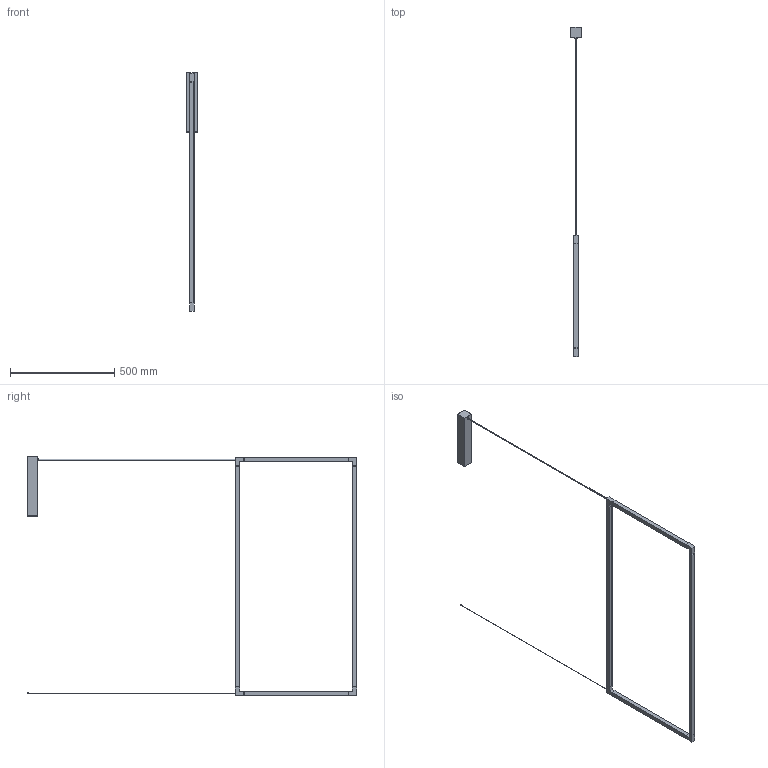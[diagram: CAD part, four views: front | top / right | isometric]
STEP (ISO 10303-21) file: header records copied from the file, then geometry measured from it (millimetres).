
FILE_DESCRIPTION (( 'STEP AP214' ), '1' );
FILE_NAME ('3D_SPIGOLO_V_PENDANT.STEP', '2018-04-09T16:24:34', ( 'Utente' ), ( '' ), 'SwSTEP 2.0', 'SolidWorks 2016', '' );
FILE_SCHEMA (( 'AUTOMOTIVE_DESIGN' ));
Length unit declared in the file: millimetre
Products named in the file (5): Group1^3D_SPIGOLO_V_PENDANT; 3D_SPIGOLO_V_PENDANT; 019COM000081-1^3D_SPIGOLO_V_PENDANT; Group3^3D_SPIGOLO_V_PENDANT; Group2^3D_SPIGOLO_V_PENDANT
Assembly tree (4 placements, depth 2):
  3D_SPIGOLO_V_PENDANT
    Group1^3D_SPIGOLO_V_PENDANT
    Group2^3D_SPIGOLO_V_PENDANT
    Group3^3D_SPIGOLO_V_PENDANT
    019COM000081-1^3D_SPIGOLO_V_PENDANT
Bounding box: 50 x 1582 x 1146.7 mm (x, y, z)
Volume: 2080717.5 mm3; surface area: 455153.3 mm2
Topology: 12 solids, 12 shells, 142 faces, 326 edges, 204 vertices
Faces by surface type: plane 112, cylinder 20, sphere 8, torus 2
Entity records: 4146 total; most frequent: CARTESIAN_POINT 671, DIRECTION 662, ORIENTED_EDGE 636, EDGE_CURVE 318, LINE 272, VECTOR 272, VERTEX_POINT 204, AXIS2_PLACEMENT_3D 195
